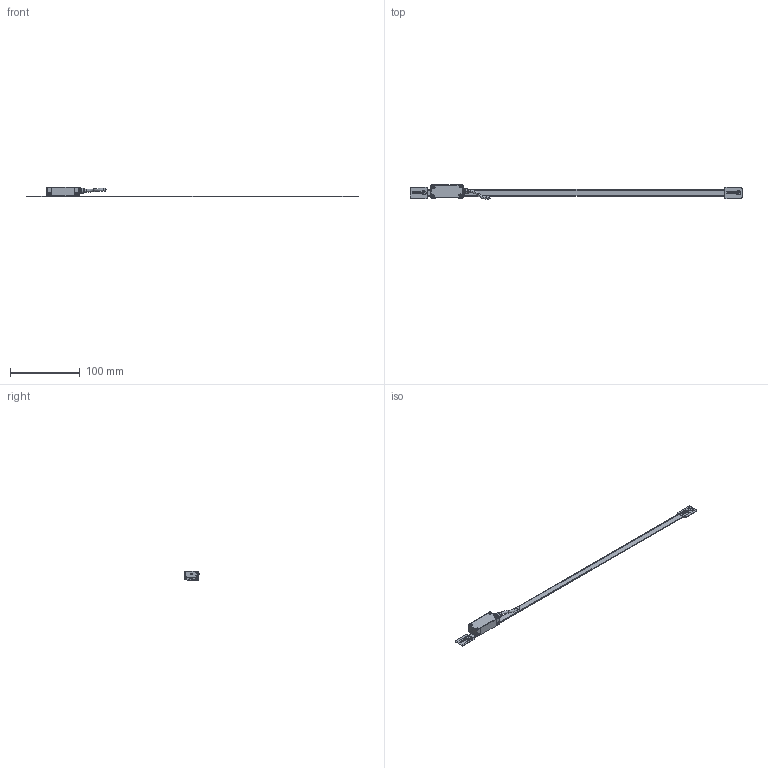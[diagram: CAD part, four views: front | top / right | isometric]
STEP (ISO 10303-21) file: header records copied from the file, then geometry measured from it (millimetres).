
FILE_DESCRIPTION(('Creo Elements/Direct Modeling STEP Export'),'2;1');
FILE_NAME('EXAA-370.stp','2017-01-11T16:39:44',(''),(''),'Creo Elements/Direct Modeling STEP processor for AP214 (Solid Model)','Creo Elements/Direct Modeling 18.1H 24-Oct-2015 (C) Parametric Technology GmbH','');
FILE_SCHEMA(('AUTOMOTIVE_DESIGN { 1 0 10303 214 1 1 1 1 }'));
Length unit declared in the file: millimetre
Products named in the file (7): CABEZA_EXPOSED; FLEJE_REGLA_EXPOSED_370; TOPE_FLEJE_PEGADO.1; TOPE_FLEJE_PEGADO
Assembly tree (4 placements, depth 2):
  CABEZA_EXPOSED
    CABEZA_EXPOSED
  FLEJE_REGLA_EXPOSED_370
    FLEJE_REGLA_EXPOSED_370
  TOPE_FLEJE_PEGADO
    TOPE_FLEJE_PEGADO.1
  TOPE_FLEJE_PEGADO.1
    TOPE_FLEJE_PEGADO.1
Bounding box: 476 x 20.7 x 13.1 mm (x, y, z)
Volume: 13113 mm3; surface area: 16007.2 mm2
Topology: 4 solids, 10 shells, 929 faces, 2589 edges, 1700 vertices
Faces by surface type: plane 741, cylinder 130, cone 46, torus 12
Entity records: 18785 total; most frequent: CARTESIAN_POINT 3390, ORIENTED_EDGE 3200, DIRECTION 2779, EDGE_CURVE 1600, VECTOR 1279, LINE 1279, VERTEX_POINT 1046, AXIS2_PLACEMENT_3D 750
